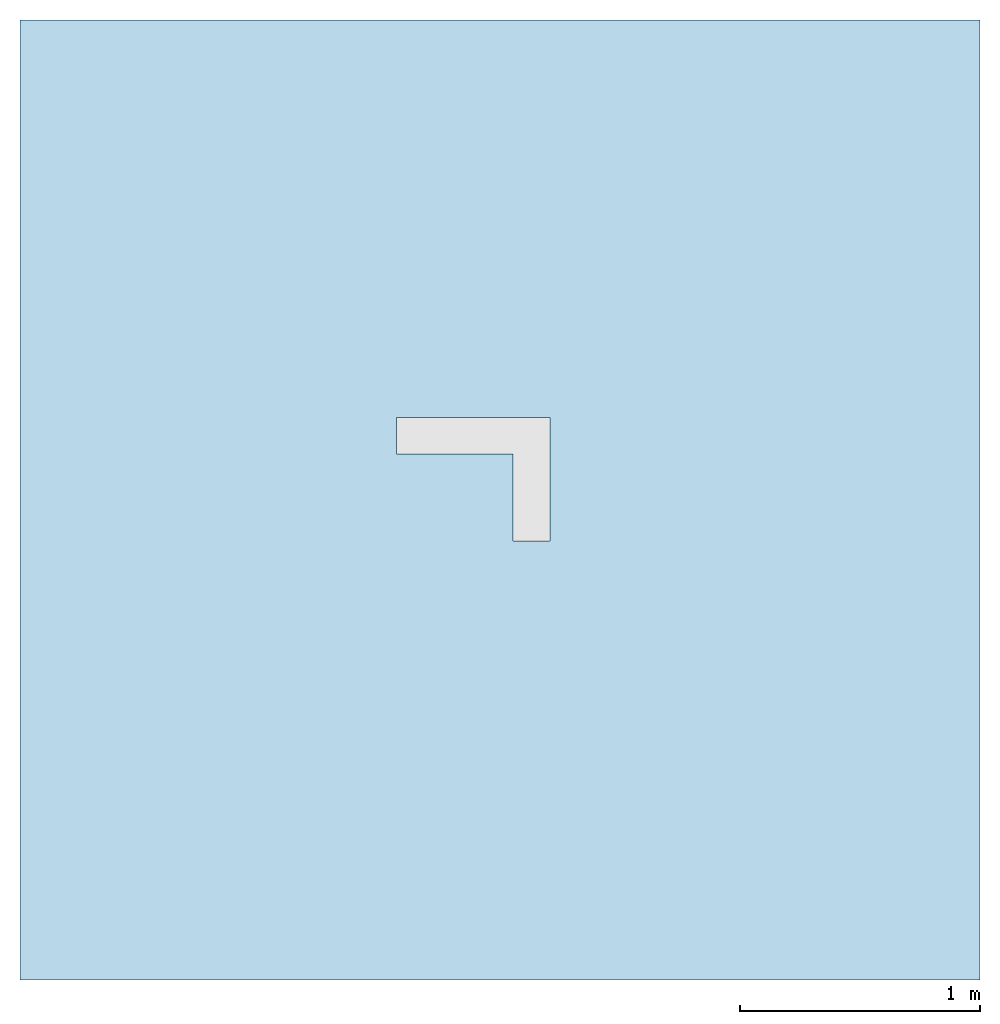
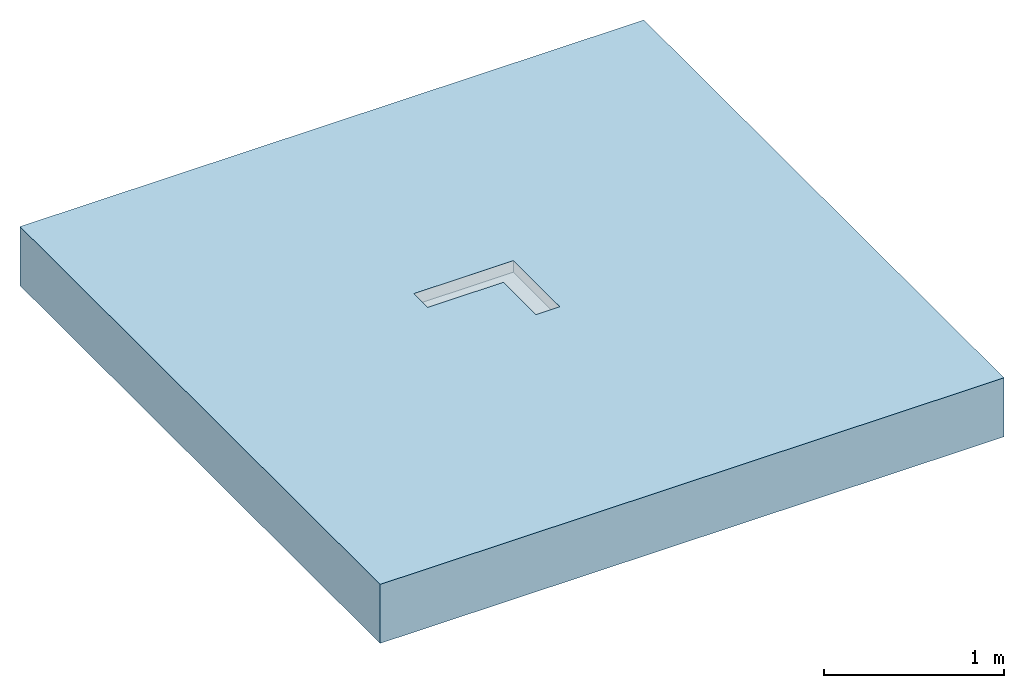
# One storey, incomplete: 1 slab, 1 opening.
"""IFC2X3 building model written with IfcOpenShell, lengths in millimetres."""

from ifc_helpers import new_model, entity, si_unit, converted_unit, direction, frame, frame_2d, origin, place, context, subcontext, project, spatial, polyline, rectangle, outline, extrude, material, layer, layer_set, layer_usage, element, save


model = new_model("IFC2X3")

# Units and contexts
model_context = context("Model", 3, precision=1e-06, world=origin(), true_north=direction((2.0, 6.12303176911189e-17, 1.0)))
context_of_model = context(None, 3, precision=1e-06, world=origin(), true_north=direction((2.0, 6.12303176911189e-17, 1.0)))
body_context = subcontext(model_context, "Body", "Model", "MODEL_VIEW")
ifc_project = project(units=[si_unit("LENGTHUNIT", "METRE", prefix="MILLI"), si_unit("AREAUNIT", "SQUARE_METRE", prefix="MILLI"), si_unit("VOLUMEUNIT", "CUBIC_METRE", prefix="MILLI"), converted_unit("PLANEANGLEUNIT", "DEGREE", entity("IfcRatioMeasure", 0.0174532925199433), si_unit("PLANEANGLEUNIT", "RADIAN"), dimensions=[0, 0, 0, 0, 0, 0, 0]), si_unit("TIMEUNIT", "SECOND")], contexts=[model_context, context_of_model])

# Site, building, storey
site_placement = place(None, origin())
site = spatial("IfcSite", under=ifc_project, at=site_placement, Name="Default", CompositionType="ELEMENT")
building_placement = place(site_placement, origin())
building = spatial("IfcBuilding", under=site, at=building_placement, CompositionType="ELEMENT")
storey_placement = place(building_placement, origin())
storey = spatial("IfcBuildingStorey", under=building, at=storey_placement, Name="Level 1", CompositionType="ELEMENT", Elevation=0.0)

# Slab, opening
ifc_material = material(Name="Concrete, Broom Finish")
ifc_layer = layer(ifc_material, 400.0)
ifc_layer_set = layer_set([ifc_layer], Name="Floor:Generic Floor - 400mm")
ifc_layer_usage = layer_usage(ifc_layer_set, "AXIS3", "POSITIVE", 0.0)
slab_placement = place(storey_placement, origin())
slab = element("IfcSlab", 1, at=slab_placement, inside=storey, material=ifc_layer_usage, Name="Floor:Generic Floor - 400mm", ObjectType="Floor:Generic Floor - 400mm", PredefinedType="FLOOR", context=body_context, shape_type="SweptSolid", body=[
    extrude(rectangle(XDim=4000.0, YDim=4000.0, at=frame_2d((0.0, 0.0), x_axis=(0.0, -1.0))), frame((-42.176138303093, 0.318612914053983, 0.0), z_axis=(0.0, 0.0, -1.0), x_axis=(-1.0, 0.0, 0.0)), (0.0, 0.0, 1.0), 400.0),
])
opening_placement = place(slab_placement, origin())
element("IfcOpeningElement", 2, at=opening_placement, cuts=slab, ObjectType="Recess", context=body_context, shape_type="SweptSolid", body=[
    extrude(outline(polyline([(-291.666666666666, -264.0), (222.333333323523, -264.0), (222.333333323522, 375.0), (69.3333333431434, 375.0), (69.3333333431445, -111.0), (-291.666666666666, -111.0), (-291.666666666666, -264.0)])), frame((-98.4863038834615, 122.034812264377, -77.8000000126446), z_axis=(0.0, 0.0, 1.0), x_axis=(0.0, 1.0, 0.0)), (0.0, 0.0, 1.0), 77.8000000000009),
])

save(model, "model.ifc")
